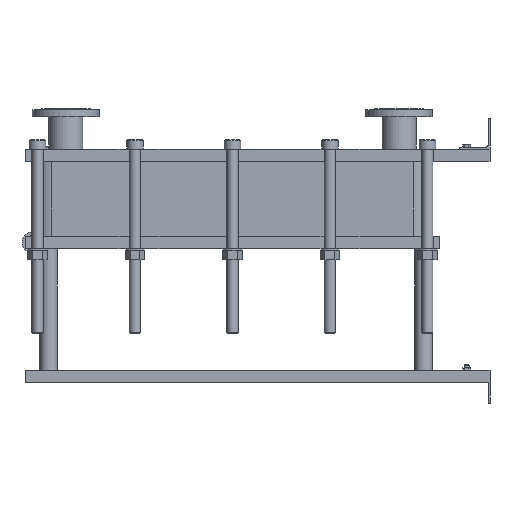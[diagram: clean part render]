
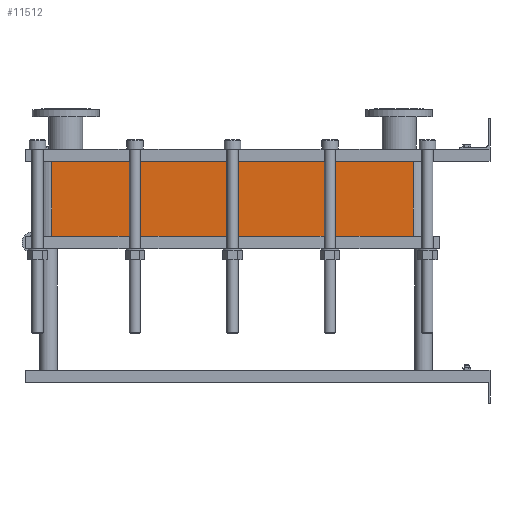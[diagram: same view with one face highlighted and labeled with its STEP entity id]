
A CAD part, left-side view. The second image highlights one B-rep face of the part: STEP entity #11512.
In plain terms, the highlighted planar face has unit normal (-1, 0, 0).
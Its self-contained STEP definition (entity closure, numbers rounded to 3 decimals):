
#1129=LINE('',#23232,#2102);
#1130=LINE('',#23236,#2103);
#1131=LINE('',#23238,#2104);
#1132=LINE('',#23239,#2105);
#2102=VECTOR('',#15887,10.);
#2103=VECTOR('',#15892,10.);
#2104=VECTOR('',#15893,10.);
#2105=VECTOR('',#15894,10.);
#3267=FACE_OUTER_BOUND('',#4093,.T.);
#4093=EDGE_LOOP('',(#10103,#10104,#10105,#10106));
#5642=VERTEX_POINT('',#23229);
#5643=VERTEX_POINT('',#23231);
#5644=VERTEX_POINT('',#23235);
#5645=VERTEX_POINT('',#23237);
#7159=EDGE_CURVE('',#5643,#5642,#1129,.T.);
#7161=EDGE_CURVE('',#5642,#5644,#1130,.T.);
#7162=EDGE_CURVE('',#5645,#5644,#1131,.T.);
#7163=EDGE_CURVE('',#5645,#5643,#1132,.T.);
#10103=ORIENTED_EDGE('',*,*,#7161,.T.);
#10104=ORIENTED_EDGE('',*,*,#7162,.F.);
#10105=ORIENTED_EDGE('',*,*,#7163,.T.);
#10106=ORIENTED_EDGE('',*,*,#7159,.T.);
#10857=PLANE('',#12751);
#11512=ADVANCED_FACE('',(#3267),#10857,.T.);
#12751=AXIS2_PLACEMENT_3D('',#23234,#15890,#15891);
#15887=DIRECTION('',(0.,0.,-1.));
#15890=DIRECTION('center_axis',(-1.,0.,0.));
#15891=DIRECTION('ref_axis',(0.,1.,0.));
#15892=DIRECTION('',(0.,-1.,0.));
#15893=DIRECTION('',(0.,0.,-1.));
#15894=DIRECTION('',(0.,1.,0.));
#23229=CARTESIAN_POINT('',(-200.,1414.,-241.5));
#23231=CARTESIAN_POINT('',(-200.,1414.,0.));
#23232=CARTESIAN_POINT('',(-200.,1414.,0.));
#23234=CARTESIAN_POINT('Origin',(-200.,248.,0.));
#23235=CARTESIAN_POINT('',(-200.,248.,-241.5));
#23236=CARTESIAN_POINT('',(-200.,539.5,-241.5));
#23237=CARTESIAN_POINT('',(-200.,248.,0.));
#23238=CARTESIAN_POINT('',(-200.,248.,0.));
#23239=CARTESIAN_POINT('',(-200.,248.,0.));
